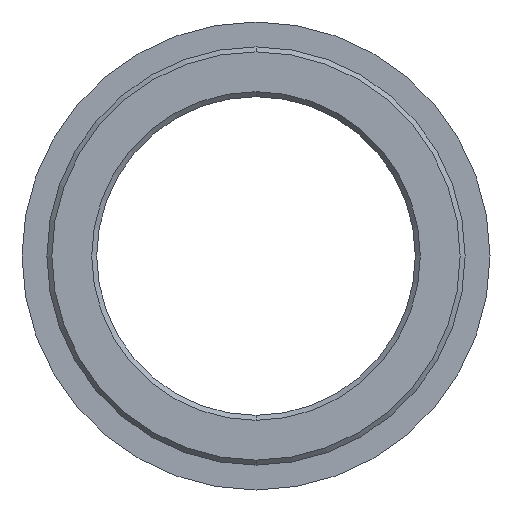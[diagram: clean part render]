
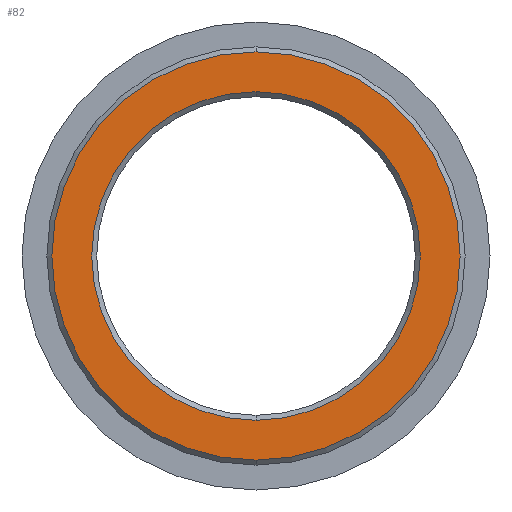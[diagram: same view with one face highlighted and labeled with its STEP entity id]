
A CAD part, left-side view. The second image highlights one B-rep face of the part: STEP entity #82.
In plain terms, the highlighted free-form (B-spline) face has degree [1, 1] with [2, 2] control points.
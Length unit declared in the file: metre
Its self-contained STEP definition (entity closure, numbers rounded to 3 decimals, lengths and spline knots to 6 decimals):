
#82 = ADVANCED_FACE( '', ( #116, #117 ), #118, .F. );
#116 = FACE_BOUND( '', #181, .T. );
#117 = FACE_OUTER_BOUND( '', #182, .T. );
#118 = B_SPLINE_SURFACE_WITH_KNOTS( '', 1, 1, ( ( #183, #184 ), ( #185, #186 ) ), .UNSPECIFIED., .F., .F., .F., ( 2, 2 ), ( 2, 2 ), ( 0., 1. ), ( 0., 1. ), .UNSPECIFIED. );
#181 = EDGE_LOOP( '', ( #295, #296 ) );
#182 = EDGE_LOOP( '', ( #297, #298 ) );
#183 = CARTESIAN_POINT( '', ( 0., -0.020746, 0.020746 ) );
#184 = CARTESIAN_POINT( '', ( 0., 0.020746, 0.020746 ) );
#185 = CARTESIAN_POINT( '', ( 0., -0.020746, -0.020746 ) );
#186 = CARTESIAN_POINT( '', ( 0., 0.020746, -0.020746 ) );
#295 = ORIENTED_EDGE( '', *, *, #457, .F. );
#296 = ORIENTED_EDGE( '', *, *, #458, .F. );
#297 = ORIENTED_EDGE( '', *, *, #456, .T. );
#298 = ORIENTED_EDGE( '', *, *, #447, .T. );
#447 = EDGE_CURVE( '', #503, #504, #505, .F. );
#456 = EDGE_CURVE( '', #504, #503, #518, .F. );
#457 = EDGE_CURVE( '', #519, #520, #521, .T. );
#458 = EDGE_CURVE( '', #520, #519, #522, .T. );
#503 = VERTEX_POINT( '', #587 );
#504 = VERTEX_POINT( '', #588 );
#505 = CIRCLE( '', #589, 0.0205 );
#518 = CIRCLE( '', #606, 0.0205 );
#519 = VERTEX_POINT( '', #607 );
#520 = VERTEX_POINT( '', #608 );
#521 = CIRCLE( '', #609, 0.0165 );
#522 = CIRCLE( '', #610, 0.0165 );
#587 = CARTESIAN_POINT( '', ( 0., 0., -0.0205 ) );
#588 = CARTESIAN_POINT( '', ( 0., 0., 0.0205 ) );
#589 = AXIS2_PLACEMENT_3D( '', #695, #696, #697 );
#606 = AXIS2_PLACEMENT_3D( '', #714, #715, #716 );
#607 = CARTESIAN_POINT( '', ( 0., 0., -0.0165 ) );
#608 = CARTESIAN_POINT( '', ( 0., 0., 0.0165 ) );
#609 = AXIS2_PLACEMENT_3D( '', #717, #718, #719 );
#610 = AXIS2_PLACEMENT_3D( '', #720, #721, #722 );
#695 = CARTESIAN_POINT( '', ( 0., 0., 0. ) );
#696 = DIRECTION( '', ( 1., 0., 0. ) );
#697 = DIRECTION( '', ( 0., 0., -1. ) );
#714 = CARTESIAN_POINT( '', ( 0., 0., 0. ) );
#715 = DIRECTION( '', ( 1., 0., 0. ) );
#716 = DIRECTION( '', ( 0., 0., -1. ) );
#717 = CARTESIAN_POINT( '', ( 0., 0., 0. ) );
#718 = DIRECTION( '', ( -1., 0., 0. ) );
#719 = DIRECTION( '', ( 0., 0., 1. ) );
#720 = CARTESIAN_POINT( '', ( 0., 0., 0. ) );
#721 = DIRECTION( '', ( -1., 0., 0. ) );
#722 = DIRECTION( '', ( 0., 0., 1. ) );
